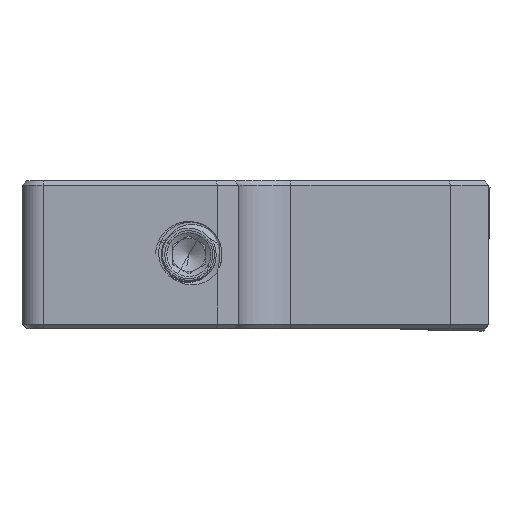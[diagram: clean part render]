
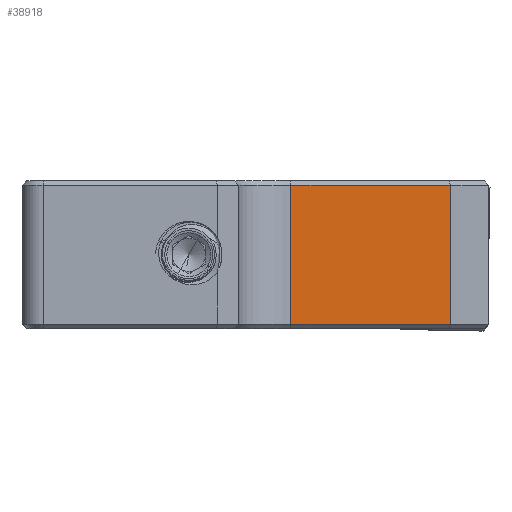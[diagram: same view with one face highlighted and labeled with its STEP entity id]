
A CAD part, left-side view. The second image highlights one B-rep face of the part: STEP entity #38918.
In plain terms, the highlighted planar face has unit normal (-1, 0, 0).
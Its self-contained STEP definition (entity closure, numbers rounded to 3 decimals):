
#31109=DIRECTION('',(0.,0.,1.));
#31110=VECTOR('',#31109,8.382);
#31111=CARTESIAN_POINT('',(-34.768,-30.35,
7.746));
#31112=LINE('',#31111,#31110);
#32148=DIRECTION('',(0.,1.,0.));
#32149=VECTOR('',#32148,9.629);
#32150=CARTESIAN_POINT('',(-34.768,-39.979,
7.746));
#32151=LINE('',#32150,#32149);
#32164=DIRECTION('',(0.,0.,1.));
#32165=VECTOR('',#32164,8.382);
#32166=CARTESIAN_POINT('',(-34.768,-39.979,
7.746));
#32167=LINE('',#32166,#32165);
#32176=DIRECTION('',(0.,-1.,0.));
#32177=VECTOR('',#32176,9.629);
#32178=CARTESIAN_POINT('',(-34.768,-30.35,
16.128));
#32179=LINE('',#32178,#32177);
#36984=CARTESIAN_POINT('',(-34.768,-39.979,
7.746));
#36986=VERTEX_POINT('',#36984);
#37006=CARTESIAN_POINT('',(-34.768,-30.35,
16.128));
#37008=VERTEX_POINT('',#37006);
#37019=CARTESIAN_POINT('',(-34.768,-30.35,
7.746));
#37020=VERTEX_POINT('',#37019);
#37106=CARTESIAN_POINT('',(-34.768,-39.979,
16.128));
#37107=VERTEX_POINT('',#37106);
#38906=CARTESIAN_POINT('',(-34.768,-30.35,
16.382));
#38907=DIRECTION('',(1.,0.,0.));
#38908=DIRECTION('',(0.,1.,0.));
#38909=AXIS2_PLACEMENT_3D('',#38906,#38907,#38908);
#38910=PLANE('',#38909);
#38911=ORIENTED_EDGE('',*,*,#37440,.T.);
#38913=ORIENTED_EDGE('',*,*,#38912,.T.);
#38914=ORIENTED_EDGE('',*,*,#38896,.F.);
#38915=ORIENTED_EDGE('',*,*,#38871,.T.);
#38916=EDGE_LOOP('',(#38911,#38913,#38914,#38915));
#38917=FACE_OUTER_BOUND('',#38916,.F.);
#38918=ADVANCED_FACE('',(#38917),#38910,.F.);
#37440=EDGE_CURVE('',#37020,#37008,#31112,.T.);
#38871=EDGE_CURVE('',#36986,#37020,#32151,.T.);
#38896=EDGE_CURVE('',#36986,#37107,#32167,.T.);
#38912=EDGE_CURVE('',#37008,#37107,#32179,.T.);
